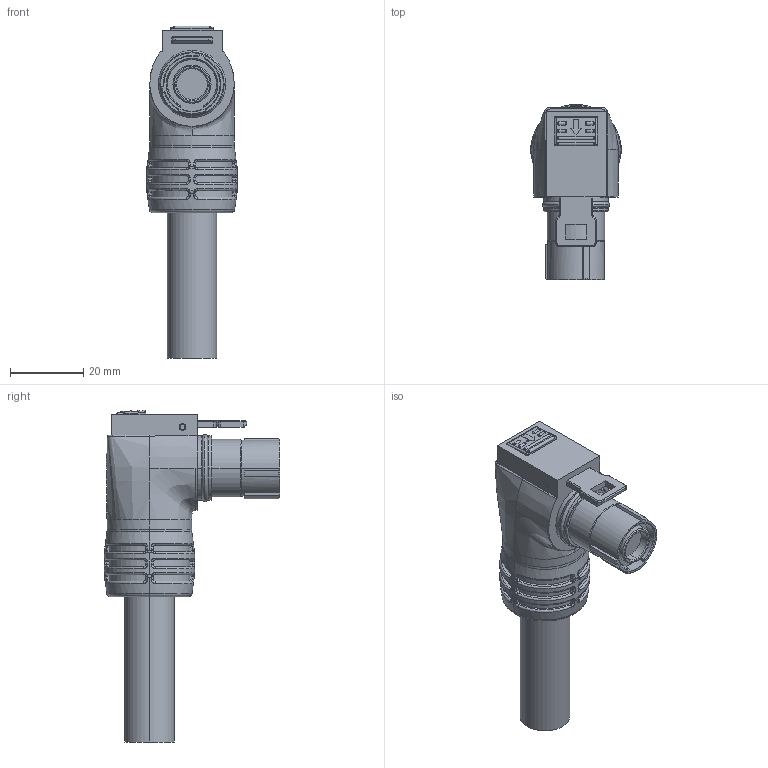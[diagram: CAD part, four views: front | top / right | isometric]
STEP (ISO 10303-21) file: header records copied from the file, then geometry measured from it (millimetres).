
FILE_DESCRIPTION (( 'STEP AP214' ), '1' );
FILE_NAME ('PL211X057-25-XX.STEP', '2013-10-17T03:43:52', ( '' ), ( '' ), 'SwSTEP 2.0', 'SolidWorks 2012', '' );
FILE_SCHEMA (( 'AUTOMOTIVE_DESIGN' ));
Length unit declared in the file: millimetre
Products named in the file (1): PL211X057-25-XX
Bounding box: 24.6 x 47.8 x 90.41 mm (x, y, z)
Volume: 32346.9 mm3; surface area: 9060.6 mm2
Topology: 2 solids, 2 shells, 529 faces, 1320 edges, 826 vertices
Faces by surface type: plane 190, bspline 135, cylinder 117, torus 58, cone 29
Entity records: 26638 total; most frequent: CARTESIAN_POINT 9538, ORIENTED_EDGE 2638, DIRECTION 1967, EDGE_CURVE 1319, VERTEX_POINT 826, AXIS2_PLACEMENT_3D 770, EDGE_LOOP 563, FACE_OUTER_BOUND 528
